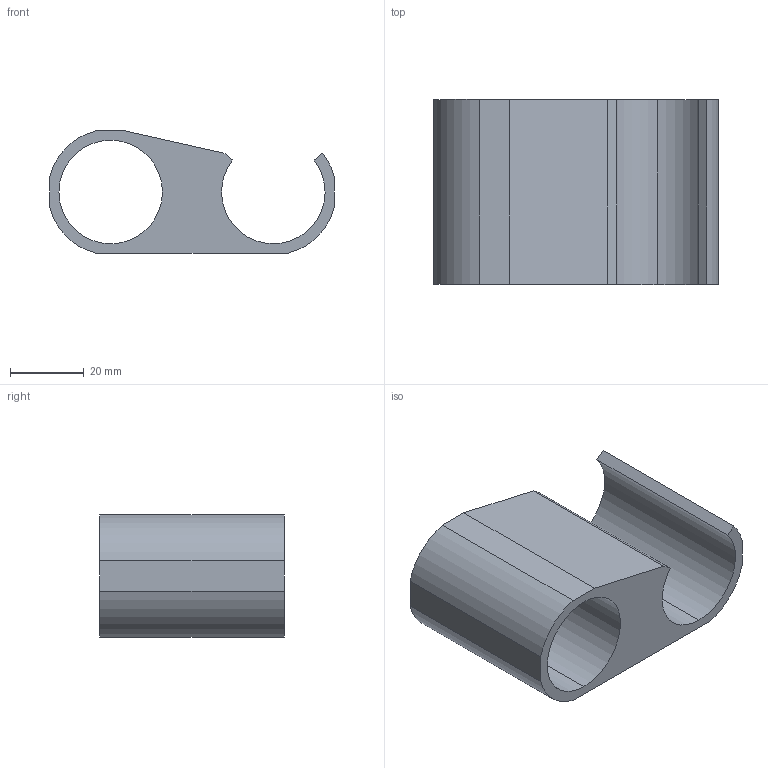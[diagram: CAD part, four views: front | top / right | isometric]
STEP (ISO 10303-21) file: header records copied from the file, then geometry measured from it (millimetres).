
FILE_DESCRIPTION (( 'STEP AP214' ), '1' );
FILE_NAME ('PJ-600.STEP', '2023-09-12T11:19:19', ( 'catia' ), ( 'HP Inc.' ), 'SwSTEP 2.0', 'SolidWorks 2021', '' );
FILE_SCHEMA (( 'AUTOMOTIVE_DESIGN' ));
Length unit declared in the file: millimetre
Products named in the file (1): PJ-600
Bounding box: 77 x 50 x 33 mm (x, y, z)
Volume: 46789.4 mm3; surface area: 18026.3 mm2
Topology: 1 solids, 1 shells, 17 faces, 45 edges, 30 vertices
Faces by surface type: plane 9, cylinder 8
Entity records: 573 total; most frequent: DIRECTION 97, CARTESIAN_POINT 93, ORIENTED_EDGE 90, EDGE_CURVE 45, AXIS2_PLACEMENT_3D 34, VERTEX_POINT 30, LINE 29, VECTOR 29
